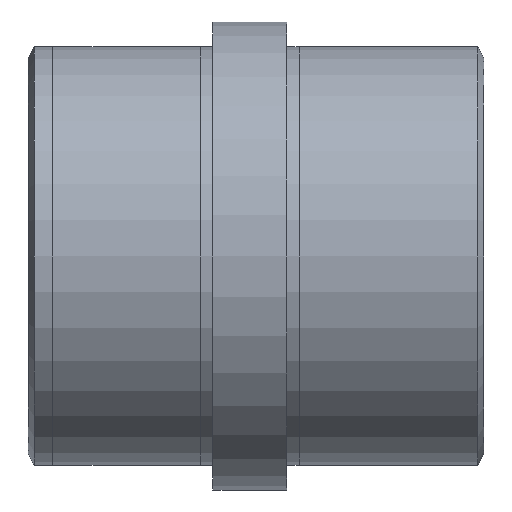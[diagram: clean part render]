
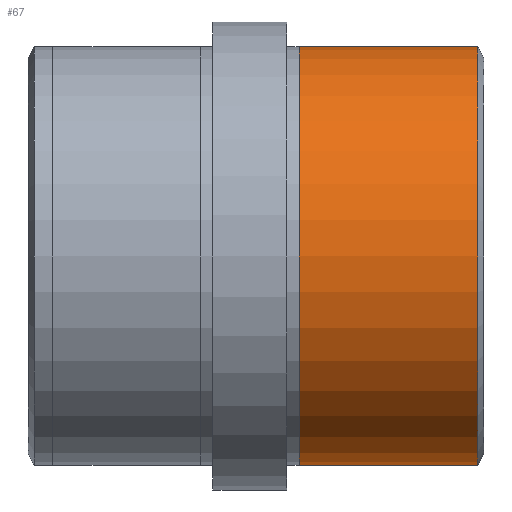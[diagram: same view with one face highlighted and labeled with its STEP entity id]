
A CAD part, front view. The second image highlights one B-rep face of the part: STEP entity #67.
In plain terms, the highlighted cylindrical face has radius 17 mm (diameter 34 mm), a partial arc.
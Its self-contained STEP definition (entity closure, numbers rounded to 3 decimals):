
#67 = ADVANCED_FACE ( 'NONE', ( #196 ), #160, .T. ) ;
#85 = ORIENTED_EDGE ( 'NONE', *, *, #805, .F. ) ;
#88 = ORIENTED_EDGE ( 'NONE', *, *, #829, .F. ) ;
#160 = CYLINDRICAL_SURFACE ( 'NONE', #890, 17. ) ;
#186 = DIRECTION ( 'NONE',  ( 0., 0., -1. ) ) ;
#192 = ORIENTED_EDGE ( 'NONE', *, *, #820, .T. ) ;
#194 = LINE ( 'NONE', #688, #724 ) ;
#196 = FACE_OUTER_BOUND ( 'NONE', #623, .T. ) ;
#246 = DIRECTION ( 'NONE',  ( 0., 0., -1. ) ) ;
#262 = LINE ( 'NONE', #409, #731 ) ;
#270 = DIRECTION ( 'NONE',  ( 0., 0., -1. ) ) ;
#308 = ORIENTED_EDGE ( 'NONE', *, *, #769, .T. ) ;
#401 = VERTEX_POINT ( 'NONE', #695 ) ;
#409 = CARTESIAN_POINT ( 'NONE',  ( 0., 0., 17. ) ) ;
#430 = CARTESIAN_POINT ( 'NONE',  ( 36.5, 0., -17. ) ) ;
#477 = VERTEX_POINT ( 'NONE', #430 ) ;
#557 = DIRECTION ( 'NONE',  ( 1., 0., 0. ) ) ;
#565 = DIRECTION ( 'NONE',  ( 1., 0., 0. ) ) ;
#570 = VERTEX_POINT ( 'NONE', #687 ) ;
#598 = CARTESIAN_POINT ( 'NONE',  ( 0., 0., 0. ) ) ;
#623 = EDGE_LOOP ( 'NONE', ( #88, #308, #192, #85 ) ) ;
#624 = DIRECTION ( 'NONE',  ( 1., 0., 0. ) ) ;
#657 = VERTEX_POINT ( 'NONE', #665 ) ;
#665 = CARTESIAN_POINT ( 'NONE',  ( 22., 0., 17. ) ) ;
#668 = DIRECTION ( 'NONE',  ( 1., 0., 0. ) ) ;
#675 = CARTESIAN_POINT ( 'NONE',  ( 22., 0., 0. ) ) ;
#681 = CARTESIAN_POINT ( 'NONE',  ( 36.5, 0., 0. ) ) ;
#682 = DIRECTION ( 'NONE',  ( 1., 0., 0. ) ) ;
#687 = CARTESIAN_POINT ( 'NONE',  ( 22., 0., -17. ) ) ;
#688 = CARTESIAN_POINT ( 'NONE',  ( 0., 0., -17. ) ) ;
#695 = CARTESIAN_POINT ( 'NONE',  ( 36.5, 0., 17. ) ) ;
#724 = VECTOR ( 'NONE', #557, 1000. ) ;
#731 = VECTOR ( 'NONE', #624, 1000. ) ;
#762 = CIRCLE ( 'NONE', #793, 17. ) ;
#769 = EDGE_CURVE ( 'NONE', #657, #570, #873, .T. ) ;
#793 = AXIS2_PLACEMENT_3D ( 'NONE', #681, #682, #270 ) ;
#805 = EDGE_CURVE ( 'NONE', #401, #477, #762, .T. ) ;
#820 = EDGE_CURVE ( 'NONE', #570, #477, #194, .T. ) ;
#829 = EDGE_CURVE ( 'NONE', #657, #401, #262, .T. ) ;
#871 = AXIS2_PLACEMENT_3D ( 'NONE', #675, #668, #246 ) ;
#873 = CIRCLE ( 'NONE', #871, 17. ) ;
#890 = AXIS2_PLACEMENT_3D ( 'NONE', #598, #565, #186 ) ;
